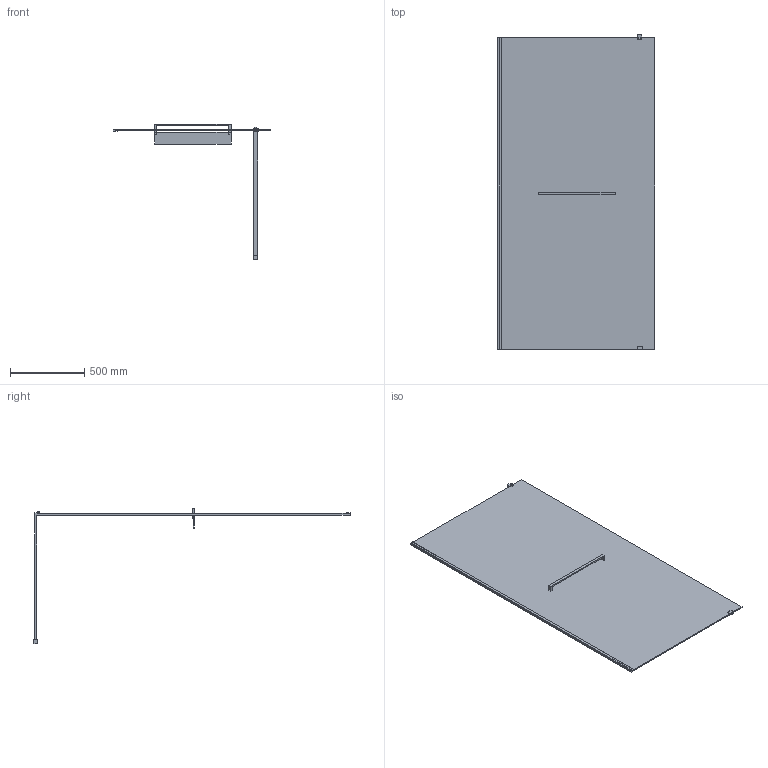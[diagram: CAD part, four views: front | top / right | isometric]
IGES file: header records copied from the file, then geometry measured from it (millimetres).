
Start section: SolidWorks IGES file using analytic representation for surfaces
Global section: file name: D:\Users\M.Szymanski\Desktop\Kabiny\PIII_ALTIIa\03. do przegrania\PIII_ALTIIa_110_z_relingiem_i_polka_K3D.IGS; native system: SolidWorks 2011; preprocessor: SolidWorks 2011; author: M.Szymanski; date: 181005.104346; units: millimetre
Bounding box: 1058.45 x 2128 x 914.13 mm (x, y, z)
Surface area: 4873824.5 mm2 (no closed solid volume)
Topology: 0 solids, 0 shells, 76 faces, 552 edges, 736 vertices
Faces by surface type: bspline 76
